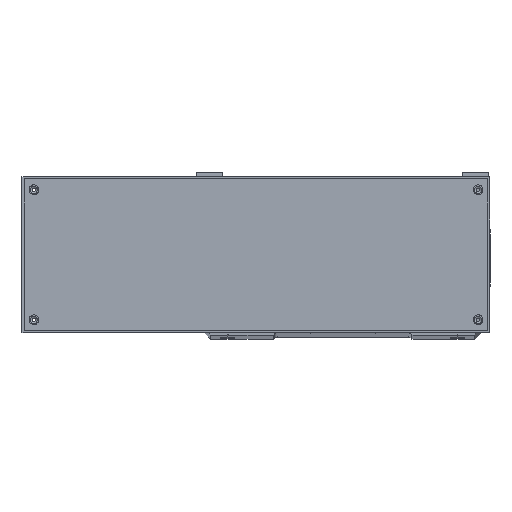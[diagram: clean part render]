
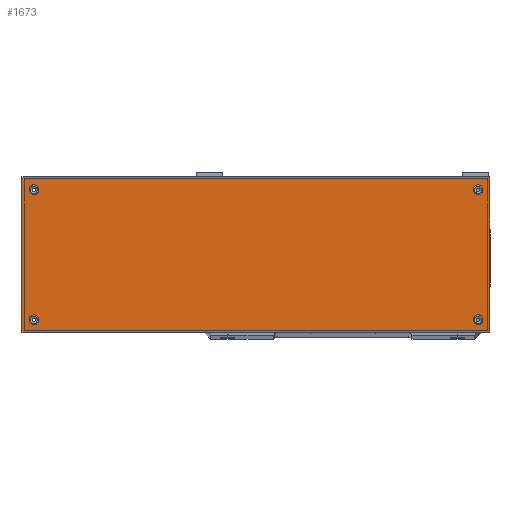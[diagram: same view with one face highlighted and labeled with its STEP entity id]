
A CAD part, top view. The second image highlights one B-rep face of the part: STEP entity #1673.
In plain terms, the highlighted planar face has unit normal (0, 0, 1).
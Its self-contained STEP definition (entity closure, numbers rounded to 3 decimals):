
#1673=ADVANCED_FACE('',(#2879,#2880,#2881,#2882,#2883),#2440,.F.);
#2440=PLANE('',#17070);
#2879=FACE_BOUND('',#3935,.T.);
#2880=FACE_BOUND('',#3936,.T.);
#2881=FACE_BOUND('',#3937,.T.);
#2882=FACE_BOUND('',#3938,.T.);
#2883=FACE_BOUND('',#3939,.T.);
#3935=EDGE_LOOP('',(#8849));
#3936=EDGE_LOOP('',(#8850));
#3937=EDGE_LOOP('',(#8851));
#3938=EDGE_LOOP('',(#8852));
#3939=EDGE_LOOP('',(#8853,#8854,#8855,#8856));
#5418=LINE('',#25660,#6558);
#5435=LINE('',#25693,#6575);
#5544=LINE('',#26610,#6684);
#5551=LINE('',#26627,#6691);
#6558=VECTOR('',#19638,1.);
#6575=VECTOR('',#19665,1.);
#6684=VECTOR('',#20116,1.);
#6691=VECTOR('',#20129,1.);
#8849=ORIENTED_EDGE('',*,*,#14418,.F.);
#8850=ORIENTED_EDGE('',*,*,#14420,.F.);
#8851=ORIENTED_EDGE('',*,*,#14422,.F.);
#8852=ORIENTED_EDGE('',*,*,#14424,.F.);
#8853=ORIENTED_EDGE('',*,*,#14183,.F.);
#8854=ORIENTED_EDGE('',*,*,#14434,.F.);
#8855=ORIENTED_EDGE('',*,*,#14425,.F.);
#8856=ORIENTED_EDGE('',*,*,#14202,.F.);
#12364=VERTEX_POINT('',#25659);
#12365=VERTEX_POINT('',#25661);
#12376=VERTEX_POINT('',#25694);
#12522=VERTEX_POINT('',#26593);
#12524=VERTEX_POINT('',#26598);
#12526=VERTEX_POINT('',#26603);
#12528=VERTEX_POINT('',#26608);
#12529=VERTEX_POINT('',#26611);
#14183=EDGE_CURVE('',#12364,#12365,#5418,.T.);
#14202=EDGE_CURVE('',#12365,#12376,#5435,.T.);
#14418=EDGE_CURVE('',#12522,#12522,#15940,.T.);
#14420=EDGE_CURVE('',#12524,#12524,#15942,.T.);
#14422=EDGE_CURVE('',#12526,#12526,#15944,.T.);
#14424=EDGE_CURVE('',#12528,#12528,#15946,.T.);
#14425=EDGE_CURVE('',#12376,#12529,#5544,.T.);
#14434=EDGE_CURVE('',#12529,#12364,#5551,.T.);
#15940=CIRCLE('',#17055,2.25);
#15942=CIRCLE('',#17058,2.25);
#15944=CIRCLE('',#17061,2.25);
#15946=CIRCLE('',#17064,2.25);
#17055=AXIS2_PLACEMENT_3D('',#26592,#20094,#20095);
#17058=AXIS2_PLACEMENT_3D('',#26597,#20100,#20101);
#17061=AXIS2_PLACEMENT_3D('',#26602,#20106,#20107);
#17064=AXIS2_PLACEMENT_3D('',#26607,#20112,#20113);
#17070=AXIS2_PLACEMENT_3D('',#26634,#20135,#20136);
#19638=DIRECTION('',(0.,-1.,0.));
#19665=DIRECTION('',(-1.,0.,0.));
#20094=DIRECTION('',(0.,0.,1.));
#20095=DIRECTION('',(-1.,0.,0.));
#20100=DIRECTION('',(0.,0.,1.));
#20101=DIRECTION('',(1.,0.,0.));
#20106=DIRECTION('',(0.,0.,1.));
#20107=DIRECTION('',(-1.,0.,0.));
#20112=DIRECTION('',(0.,0.,1.));
#20113=DIRECTION('',(1.,0.,0.));
#20116=DIRECTION('',(0.,1.,0.));
#20129=DIRECTION('',(1.,0.,0.));
#20135=DIRECTION('',(0.,0.,-1.));
#20136=DIRECTION('',(1.,0.,0.));
#25659=CARTESIAN_POINT('',(68.,72.,193.));
#25660=CARTESIAN_POINT('',(68.,72.,193.));
#25661=CARTESIAN_POINT('',(68.,0.,193.));
#25693=CARTESIAN_POINT('',(68.,0.,193.));
#25694=CARTESIAN_POINT('',(-148.,0.,193.));
#26592=CARTESIAN_POINT('',(-142.5,6.,193.));
#26593=CARTESIAN_POINT('',(-144.75,6.,193.));
#26597=CARTESIAN_POINT('',(62.5,6.,193.));
#26598=CARTESIAN_POINT('',(64.75,6.,193.));
#26602=CARTESIAN_POINT('',(62.5,66.,193.));
#26603=CARTESIAN_POINT('',(60.25,66.,193.));
#26607=CARTESIAN_POINT('',(-142.5,66.,193.));
#26608=CARTESIAN_POINT('',(-140.25,66.,193.));
#26610=CARTESIAN_POINT('',(-148.,72.,193.));
#26611=CARTESIAN_POINT('',(-148.,72.,193.));
#26627=CARTESIAN_POINT('',(68.,72.,193.));
#26634=CARTESIAN_POINT('',(-40.,36.,193.));
